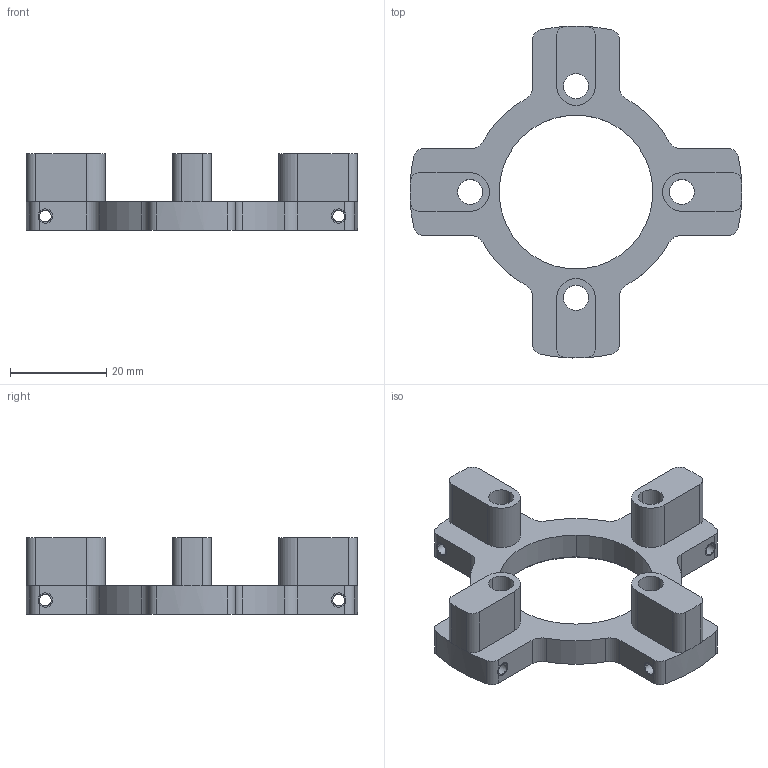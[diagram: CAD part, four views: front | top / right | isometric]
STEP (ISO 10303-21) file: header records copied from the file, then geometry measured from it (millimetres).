
FILE_DESCRIPTION(/* description */ ('VariCAD 2010-3.03 AP-214'),/* implementation_level */ '2;1');
FILE_NAME(/* name */ '0353-19-80',/* time_stamp */ '2011-03-01T22:18:42-07:00',/* author */ (''),/* organization */ (''),/* preprocessor_version */ 'ST-DEVELOPER v12',/* originating_system */ 'VariCAD 2010-3.03; kernel version (20100102)',/* authorisation */ '');
FILE_SCHEMA (('AUTOMOTIVE_DESIGN'));
Length unit declared in the file: millimetre
Products named in the file (1): Part
Bounding box: 68.99 x 68.99 x 16 mm (x, y, z)
Volume: 10897.6 mm3; surface area: 10288.9 mm2
Topology: 9 solids, 9 shells, 178 faces, 518 edges, 342 vertices
Faces by surface type: cylinder 138, plane 38, cone 2
Entity records: 6799 total; most frequent: CARTESIAN_POINT 1976, ORIENTED_EDGE 1036, DIRECTION 952, EDGE_CURVE 518, AXIS2_PLACEMENT_3D 374, VERTEX_POINT 342, EDGE_LOOP 204, LINE 204
